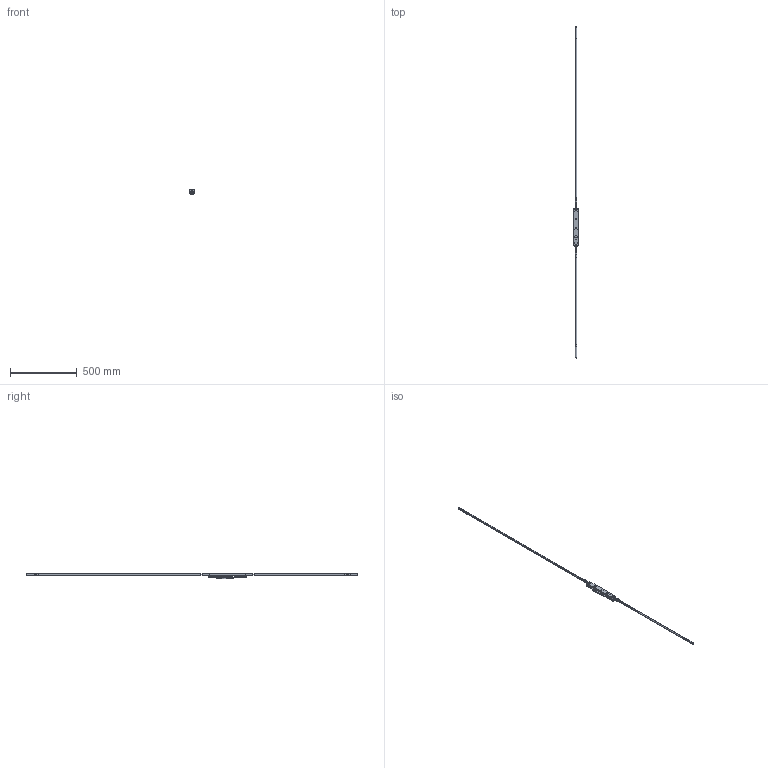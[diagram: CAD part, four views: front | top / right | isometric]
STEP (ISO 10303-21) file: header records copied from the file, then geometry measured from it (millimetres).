
FILE_DESCRIPTION (( 'STEP AP214' ), '1' );
FILE_NAME ('TPL-H-APC-103-C 17Oct2024.STEP', '2024-10-17T04:32:17', ( '' ), ( '' ), 'SwSTEP 2.0', 'SolidWorks 2023', '' );
FILE_SCHEMA (( 'AUTOMOTIVE_DESIGN' ));
Length unit declared in the file: millimetre
Products named in the file (17): Copy of LKC-540 Transmission rod aluminium system TPLGen2^TPL-H-APC-604 16Oct2024_2885mm; Copy of LKC-586 Spindle square 8mm with M4 hole^Copy of TPGen2 handle keyed internal zinc - simplified_TPL-H-APC-604 16Oct2024_25mm; Copy of LKC-505 Swing handle zinc - simplified^Copy of TPGen2 handle keyed internal zinc - simplified_TPL-H-APC-604 16Oct2024; Copy of LKC-532 Rod connector - simplified^TPL-H-APC-604 16Oct2024; Copy of TPL-H-APC-515 04Oct2024^TPL-H-APC-604 16Oct2024; Copy of LKC-576 Bolt adaptor - simplified^TPL-H-APC-604 16Oct2024; Copy of LKC-512 Escutcheon plate keyed internal 285mm long zinc - simplified^Copy of TPGen2 handle keyed internal zinc - simplified_TPL-H-APC-604 16Oct2024; Copy of TPLGen2 push rod - simplified^Copy of TPLGen2 lock body keyed assembly_TPL-H-APC-604 16Oct2024_Female thread M10; Copy of LKC-584 Pivot body zinc - simplified^Copy of TPGen2 handle keyed internal zinc - simplified_TPL-H-APC-604 16Oct2024; Copy of TPLGen2 lock body keyed assembly^TPL-H-APC-604 16Oct2024_Bolts extended - left; Copy (2) of LKC-540 Transmission rod aluminium system TPLGen2^TPL-H-APC-604 16Oct2024_2885mm; Copy of TPL-H-APC-517 04Oct2024^TPL-H-APC-604 16Oct2024; TPL-H-APC-103-C 17Oct2024; Copy of TPL-022 Lock cylinder single 3 pin 23mm^TPL-H-APC-604 16Oct2024_Left; Copy of TPGen2 handle keyed internal zinc - simplified^TPL-H-APC-604 16Oct2024_Vertical; Copy of TPLGen2 lock body keyed^Copy of TPLGen2 lock body keyed assembly_TPL-H-APC-604 16Oct2024_Left; Copy of LKC-585 Rotator body zinc^Copy of TPGen2 handle keyed internal zinc - simplified_TPL-H-APC-604 16Oct2024
Assembly tree (22 placements, depth 3):
  TPL-H-APC-103-C 17Oct2024
    Copy of TPLGen2 lock body keyed assembly^TPL-H-APC-604 16Oct2024_Bolts extended - left
      Copy of TPLGen2 lock body keyed^Copy of TPLGen2 lock body keyed assembly_TPL-H-APC-604 16Oct2024_Left
      Copy of TPLGen2 push rod - simplified^Copy of TPLGen2 lock body keyed assembly_TPL-H-APC-604 16Oct2024_Female thread M10  x2
    Copy of TPGen2 handle keyed internal zinc - simplified^TPL-H-APC-604 16Oct2024_Vertical
      Copy of LKC-512 Escutcheon plate keyed internal 285mm long zinc - simplified^Copy of TPGen2 handle keyed internal zinc - simplified_TPL-H-APC-604 16Oct2024
      Copy of LKC-505 Swing handle zinc - simplified^Copy of TPGen2 handle keyed internal zinc - simplified_TPL-H-APC-604 16Oct2024
      Copy of LKC-585 Rotator body zinc^Copy of TPGen2 handle keyed internal zinc - simplified_TPL-H-APC-604 16Oct2024
      Copy of LKC-586 Spindle square 8mm with M4 hole^Copy of TPGen2 handle keyed internal zinc - simplified_TPL-H-APC-604 16Oct2024_25mm
      Copy of LKC-584 Pivot body zinc - simplified^Copy of TPGen2 handle keyed internal zinc - simplified_TPL-H-APC-604 16Oct2024
    Copy of LKC-532 Rod connector - simplified^TPL-H-APC-604 16Oct2024  x2
    Copy of LKC-540 Transmission rod aluminium system TPLGen2^TPL-H-APC-604 16Oct2024_2885mm
    Copy (2) of LKC-540 Transmission rod aluminium system TPLGen2^TPL-H-APC-604 16Oct2024_2885mm
    Copy of LKC-576 Bolt adaptor - simplified^TPL-H-APC-604 16Oct2024  x2
    Copy of TPL-H-APC-517 04Oct2024^TPL-H-APC-604 16Oct2024  x2
    Copy of TPL-H-APC-515 04Oct2024^TPL-H-APC-604 16Oct2024  x3
    Copy of TPL-022 Lock cylinder single 3 pin 23mm^TPL-H-APC-604 16Oct2024_Left
Bounding box: 35 x 2495.9 x 42.36 mm (x, y, z)
Volume: 336965.2 mm3; surface area: 229400.3 mm2
Topology: 20 solids, 20 shells, 1318 faces, 3204 edges, 1940 vertices
Faces by surface type: cylinder 430, plane 395, bspline 224, cone 123, torus 113, sphere 33
Entity records: 33145 total; most frequent: CARTESIAN_POINT 13167, ORIENTED_EDGE 4212, DIRECTION 3909, EDGE_CURVE 2106, AXIS2_PLACEMENT_3D 1549, VERTEX_POINT 1285, EDGE_LOOP 987, ADVANCED_FACE 888
